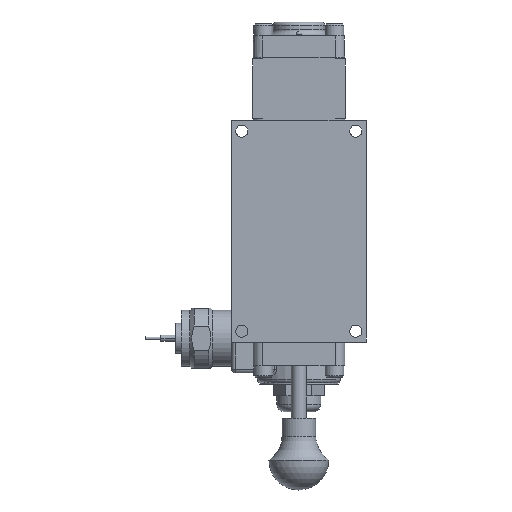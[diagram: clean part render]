
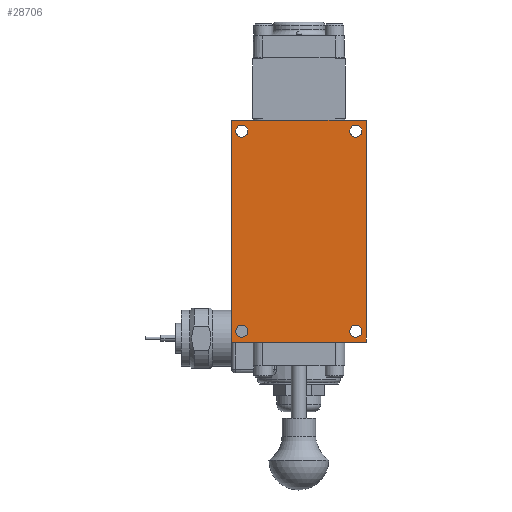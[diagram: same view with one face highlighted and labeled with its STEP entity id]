
A CAD part, front view. The second image highlights one B-rep face of the part: STEP entity #28706.
In plain terms, the highlighted planar face has unit normal (0, -1, 0).
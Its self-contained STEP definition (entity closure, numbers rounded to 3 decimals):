
#517=FACE_BOUND('',#4709,.T.);
#518=FACE_BOUND('',#4710,.T.);
#519=FACE_BOUND('',#4711,.T.);
#520=FACE_BOUND('',#4712,.T.);
#1210=PLANE('',#31182);
#2896=FACE_OUTER_BOUND('',#4708,.T.);
#4708=EDGE_LOOP('',(#23637,#23638,#23639,#23640));
#4709=EDGE_LOOP('',(#23641));
#4710=EDGE_LOOP('',(#23642));
#4711=EDGE_LOOP('',(#23643));
#4712=EDGE_LOOP('',(#23644));
#7001=LINE('',#48537,#9023);
#7215=LINE('',#49564,#9237);
#7458=LINE('',#50987,#9480);
#7538=LINE('',#51987,#9560);
#9023=VECTOR('',#36316,1.);
#9237=VECTOR('',#36702,1.);
#9480=VECTOR('',#37095,1.);
#9560=VECTOR('',#37587,1.);
#10748=CIRCLE('',#31147,0.258);
#10750=CIRCLE('',#31150,0.258);
#10752=CIRCLE('',#31153,0.258);
#10754=CIRCLE('',#31156,0.258);
#12543=VERTEX_POINT('',#48534);
#12544=VERTEX_POINT('',#48536);
#12729=VERTEX_POINT('',#49562);
#12955=VERTEX_POINT('',#50986);
#13084=VERTEX_POINT('',#51915);
#13086=VERTEX_POINT('',#51921);
#13088=VERTEX_POINT('',#51927);
#13090=VERTEX_POINT('',#51933);
#15875=EDGE_CURVE('',#12543,#12544,#7001,.T.);
#16154=EDGE_CURVE('',#12729,#12543,#7215,.T.);
#16491=EDGE_CURVE('',#12544,#12955,#7458,.T.);
#16688=EDGE_CURVE('',#13084,#13084,#10748,.T.);
#16691=EDGE_CURVE('',#13086,#13086,#10750,.T.);
#16694=EDGE_CURVE('',#13088,#13088,#10752,.T.);
#16697=EDGE_CURVE('',#13090,#13090,#10754,.T.);
#16723=EDGE_CURVE('',#12955,#12729,#7538,.T.);
#23637=ORIENTED_EDGE('',*,*,#16154,.F.);
#23638=ORIENTED_EDGE('',*,*,#16723,.F.);
#23639=ORIENTED_EDGE('',*,*,#16491,.F.);
#23640=ORIENTED_EDGE('',*,*,#15875,.F.);
#23641=ORIENTED_EDGE('',*,*,#16688,.T.);
#23642=ORIENTED_EDGE('',*,*,#16691,.T.);
#23643=ORIENTED_EDGE('',*,*,#16694,.T.);
#23644=ORIENTED_EDGE('',*,*,#16697,.T.);
#28706=ADVANCED_FACE('',(#2896,#517,#518,#519,#520),#1210,.F.);
#31147=AXIS2_PLACEMENT_3D('',#51917,#37497,#37498);
#31150=AXIS2_PLACEMENT_3D('',#51923,#37504,#37505);
#31153=AXIS2_PLACEMENT_3D('',#51929,#37511,#37512);
#31156=AXIS2_PLACEMENT_3D('',#51935,#37518,#37519);
#31182=AXIS2_PLACEMENT_3D('',#51986,#37585,#37586);
#36316=DIRECTION('',(1.,0.,0.));
#36702=DIRECTION('',(0.,0.,1.));
#37095=DIRECTION('',(0.,0.,-1.));
#37497=DIRECTION('center_axis',(0.,1.,0.));
#37498=DIRECTION('ref_axis',(-1.,0.,0.));
#37504=DIRECTION('center_axis',(0.,1.,0.));
#37505=DIRECTION('ref_axis',(-1.,0.,0.));
#37511=DIRECTION('center_axis',(0.,1.,0.));
#37512=DIRECTION('ref_axis',(-1.,0.,0.));
#37518=DIRECTION('center_axis',(0.,1.,0.));
#37519=DIRECTION('ref_axis',(-1.,0.,0.));
#37585=DIRECTION('center_axis',(0.,1.,0.));
#37586=DIRECTION('ref_axis',(0.,0.,1.));
#37587=DIRECTION('',(-1.,0.,0.));
#48534=CARTESIAN_POINT('',(-2.858,-1.636,4.71));
#48536=CARTESIAN_POINT('',(2.858,-1.636,4.71));
#48537=CARTESIAN_POINT('',(-2.858,-1.636,4.71));
#49562=CARTESIAN_POINT('',(-2.858,-1.636,-4.71));
#49564=CARTESIAN_POINT('',(-2.858,-1.636,-4.71));
#50986=CARTESIAN_POINT('',(2.858,-1.636,-4.71));
#50987=CARTESIAN_POINT('',(2.858,-1.636,4.71));
#51915=CARTESIAN_POINT('',(-2.163,-1.636,-4.247));
#51917=CARTESIAN_POINT('Origin',(-2.421,-1.636,-4.247));
#51921=CARTESIAN_POINT('',(-2.163,-1.636,4.247));
#51923=CARTESIAN_POINT('Origin',(-2.421,-1.636,4.247));
#51927=CARTESIAN_POINT('',(2.678,-1.636,-4.247));
#51929=CARTESIAN_POINT('Origin',(2.421,-1.636,-4.247));
#51933=CARTESIAN_POINT('',(2.678,-1.636,4.247));
#51935=CARTESIAN_POINT('Origin',(2.421,-1.636,4.247));
#51986=CARTESIAN_POINT('Origin',(0.,-1.636,0.));
#51987=CARTESIAN_POINT('',(2.858,-1.636,-4.71));
